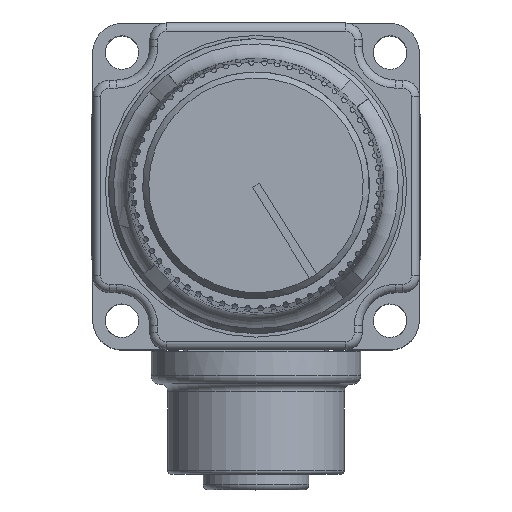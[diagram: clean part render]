
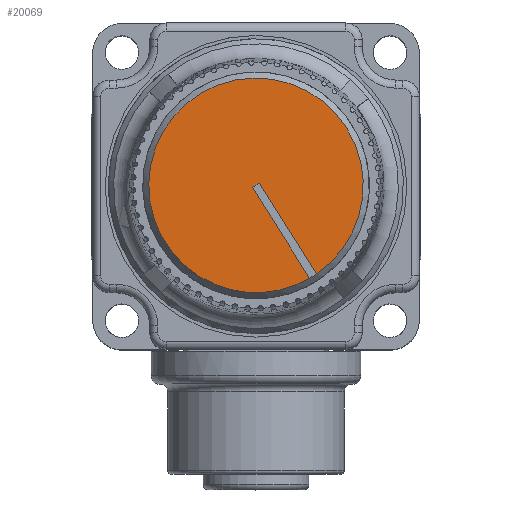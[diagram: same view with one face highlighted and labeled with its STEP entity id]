
A CAD part, top view. The second image highlights one B-rep face of the part: STEP entity #20069.
In plain terms, the highlighted planar face has unit normal (0, 0, 1).
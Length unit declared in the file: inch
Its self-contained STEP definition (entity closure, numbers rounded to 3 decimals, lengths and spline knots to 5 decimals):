
#2147=LINE('',#38967,#3540);
#2152=LINE('',#38986,#3545);
#2155=LINE('',#38991,#3548);
#3540=VECTOR('',#26732,0.3937);
#3545=VECTOR('',#26743,0.3937);
#3548=VECTOR('',#26748,0.3937);
#4860=FACE_OUTER_BOUND('',#6054,.T.);
#6054=EDGE_LOOP('',(#16289,#16290,#16291,#16292,#16293));
#6942=CIRCLE('',#21966,0.4);
#6943=CIRCLE('',#21967,0.4);
#8662=VERTEX_POINT('',#38965);
#8663=VERTEX_POINT('',#38966);
#8666=VERTEX_POINT('',#38979);
#8668=VERTEX_POINT('',#38985);
#8670=VERTEX_POINT('',#38995);
#11249=EDGE_CURVE('',#8662,#8663,#2147,.T.);
#11256=EDGE_CURVE('',#8668,#8666,#2152,.T.);
#11259=EDGE_CURVE('',#8663,#8668,#2155,.T.);
#11261=EDGE_CURVE('',#8666,#8670,#6942,.T.);
#11262=EDGE_CURVE('',#8670,#8662,#6943,.T.);
#16289=ORIENTED_EDGE('',*,*,#11256,.T.);
#16290=ORIENTED_EDGE('',*,*,#11261,.T.);
#16291=ORIENTED_EDGE('',*,*,#11262,.T.);
#16292=ORIENTED_EDGE('',*,*,#11249,.T.);
#16293=ORIENTED_EDGE('',*,*,#11259,.T.);
#18008=PLANE('',#21970);
#20069=ADVANCED_FACE('',(#4860),#18008,.T.);
#21966=AXIS2_PLACEMENT_3D('',#38996,#26754,#26755);
#21967=AXIS2_PLACEMENT_3D('',#38997,#26756,#26757);
#21970=AXIS2_PLACEMENT_3D('',#39003,#26763,#26764);
#26732=DIRECTION('',(-0.532,0.847,0.));
#26743=DIRECTION('',(0.532,-0.847,0.));
#26748=DIRECTION('',(0.847,0.532,0.));
#26754=DIRECTION('center_axis',(0.,0.,1.));
#26755=DIRECTION('ref_axis',(0.847,0.532,0.));
#26756=DIRECTION('center_axis',(0.,0.,1.));
#26757=DIRECTION('ref_axis',(0.847,0.532,0.));
#26763=DIRECTION('center_axis',(0.,0.,1.));
#26764=DIRECTION('ref_axis',(1.,0.,0.));
#38965=CARTESIAN_POINT('',(0.28747,-0.49596,1.8705));
#38966=CARTESIAN_POINT('',(0.07498,-0.1574,1.8705));
#38967=CARTESIAN_POINT('',(0.28747,-0.49596,1.8705));
#38979=CARTESIAN_POINT('',(0.31288,-0.48001,1.8705));
#38985=CARTESIAN_POINT('',(0.10039,-0.14145,1.8705));
#38986=CARTESIAN_POINT('',(0.10039,-0.14145,1.8705));
#38991=CARTESIAN_POINT('',(0.07498,-0.1574,1.8705));
#38995=CARTESIAN_POINT('',(-0.06448,-0.51936,1.8705));
#38996=CARTESIAN_POINT('Origin',(0.08768,-0.14943,
1.8705));
#38997=CARTESIAN_POINT('Origin',(0.08768,-0.14943,
1.8705));
#39003=CARTESIAN_POINT('Origin',(-0.26109,-0.36526,
1.8705));
